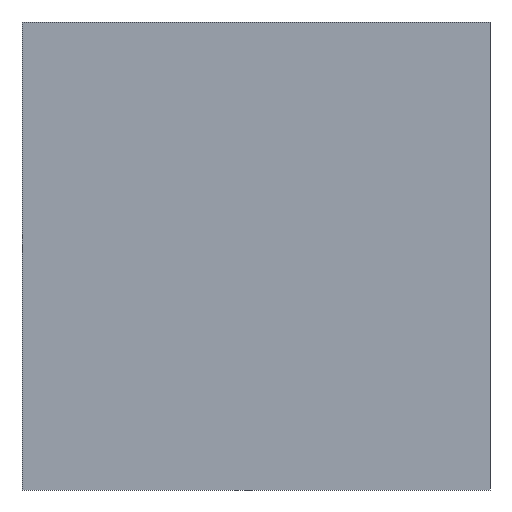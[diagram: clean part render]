
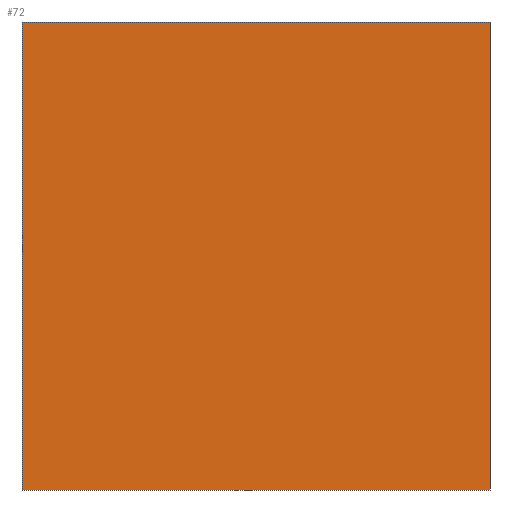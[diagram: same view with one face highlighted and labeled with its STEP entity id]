
A CAD part, front view. The second image highlights one B-rep face of the part: STEP entity #72.
In plain terms, the highlighted planar face has unit normal (0, -1, 0).
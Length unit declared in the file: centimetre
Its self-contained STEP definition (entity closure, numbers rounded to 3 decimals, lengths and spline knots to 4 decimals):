
#9 = ORIENTED_EDGE ( 'NONE', *, *, #91, .F. ) ;
#16 = ORIENTED_EDGE ( 'NONE', *, *, #262, .T. ) ;
#63 = CARTESIAN_POINT ( 'NONE',  ( 0., 0., 1000. ) ) ;
#65 = CARTESIAN_POINT ( 'NONE',  ( 0., 0., 1000. ) ) ;
#69 = DIRECTION ( 'NONE',  ( 1., 0., 0. ) ) ;
#72 = ADVANCED_FACE ( 'NONE', ( #251 ), #100, .F. ) ;
#74 = ORIENTED_EDGE ( 'NONE', *, *, #311, .T. ) ;
#91 = EDGE_CURVE ( 'NONE', #222, #93, #339, .T. ) ;
#93 = VERTEX_POINT ( 'NONE', #99 ) ;
#99 = CARTESIAN_POINT ( 'NONE',  ( 1000., 0., 0. ) ) ;
#100 = PLANE ( 'NONE',  #340 ) ;
#108 = CARTESIAN_POINT ( 'NONE',  ( 0., 0., 0. ) ) ;
#137 = EDGE_CURVE ( 'NONE', #400, #222, #263, .T. ) ;
#140 = VECTOR ( 'NONE', #196, 100. ) ;
#144 = CARTESIAN_POINT ( 'NONE',  ( 0., 0., 0. ) ) ;
#164 = CARTESIAN_POINT ( 'NONE',  ( 1000., 0., 1000. ) ) ;
#189 = VECTOR ( 'NONE', #286, 100. ) ;
#196 = DIRECTION ( 'NONE',  ( 0., 0., -1. ) ) ;
#200 = VECTOR ( 'NONE', #69, 100. ) ;
#206 = DIRECTION ( 'NONE',  ( 1., 0., 0. ) ) ;
#215 = VERTEX_POINT ( 'NONE', #108 ) ;
#222 = VERTEX_POINT ( 'NONE', #164 ) ;
#251 = FACE_OUTER_BOUND ( 'NONE', #397, .T. ) ;
#256 = DIRECTION ( 'NONE',  ( 0., 1., 0. ) ) ;
#262 = EDGE_CURVE ( 'NONE', #400, #215, #344, .T. ) ;
#263 = LINE ( 'NONE', #378, #200 ) ;
#270 = LINE ( 'NONE', #144, #300 ) ;
#286 = DIRECTION ( 'NONE',  ( 0., 0., -1. ) ) ;
#300 = VECTOR ( 'NONE', #206, 100. ) ;
#301 = CARTESIAN_POINT ( 'NONE',  ( 0., 0., 1000. ) ) ;
#310 = CARTESIAN_POINT ( 'NONE',  ( 1000., 0., 1000. ) ) ;
#311 = EDGE_CURVE ( 'NONE', #215, #93, #270, .T. ) ;
#339 = LINE ( 'NONE', #310, #189 ) ;
#340 = AXIS2_PLACEMENT_3D ( 'NONE', #65, #256, #364 ) ;
#344 = LINE ( 'NONE', #63, #140 ) ;
#364 = DIRECTION ( 'NONE',  ( 0., 0., 1. ) ) ;
#375 = ORIENTED_EDGE ( 'NONE', *, *, #137, .F. ) ;
#378 = CARTESIAN_POINT ( 'NONE',  ( 0., 0., 1000. ) ) ;
#397 = EDGE_LOOP ( 'NONE', ( #74, #9, #375, #16 ) ) ;
#400 = VERTEX_POINT ( 'NONE', #301 ) ;
